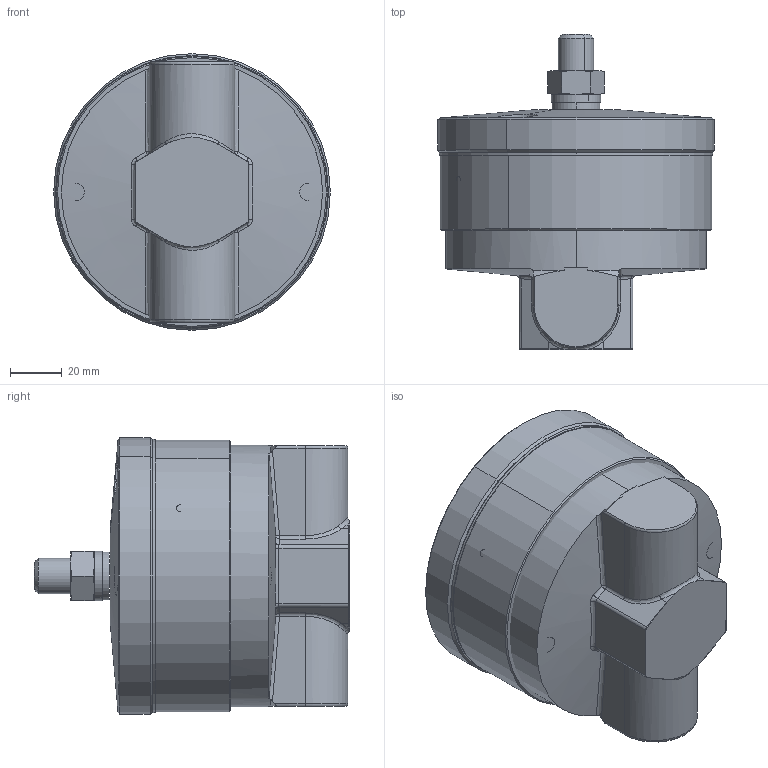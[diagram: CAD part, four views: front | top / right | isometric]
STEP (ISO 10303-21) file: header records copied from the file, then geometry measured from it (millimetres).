
FILE_DESCRIPTION((''),'2;1');
FILE_NAME('234259-EN-D_PRT','2019-12-31T16:07:12',('qusrh3'),(''),'CREO PARAMETRIC BY PTC INC, 2019030','CREO PARAMETRIC BY PTC INC, 2019030','');
FILE_SCHEMA(('CONFIG_CONTROL_DESIGN'));
Length unit declared in the file: inch
Products named in the file (1): 234259-EN-D_PRT
Bounding box: 106.9 x 121.76 x 106.9 mm (x, y, z)
Surface area: 66985.5 mm2 (no closed solid volume)
Topology: 0 solids, 15 shells, 152 faces, 391 edges, 251 vertices
Faces by surface type: cylinder 51, cone 34, plane 29, bspline 24, sphere 8, torus 6
Entity records: 5926 total; most frequent: CARTESIAN_POINT 2466, ORIENTED_EDGE 709, DIRECTION 678, EDGE_CURVE 391, AXIS2_PLACEMENT_3D 277, VERTEX_POINT 251, EDGE_LOOP 152, FACE_OUTER_BOUND 152
